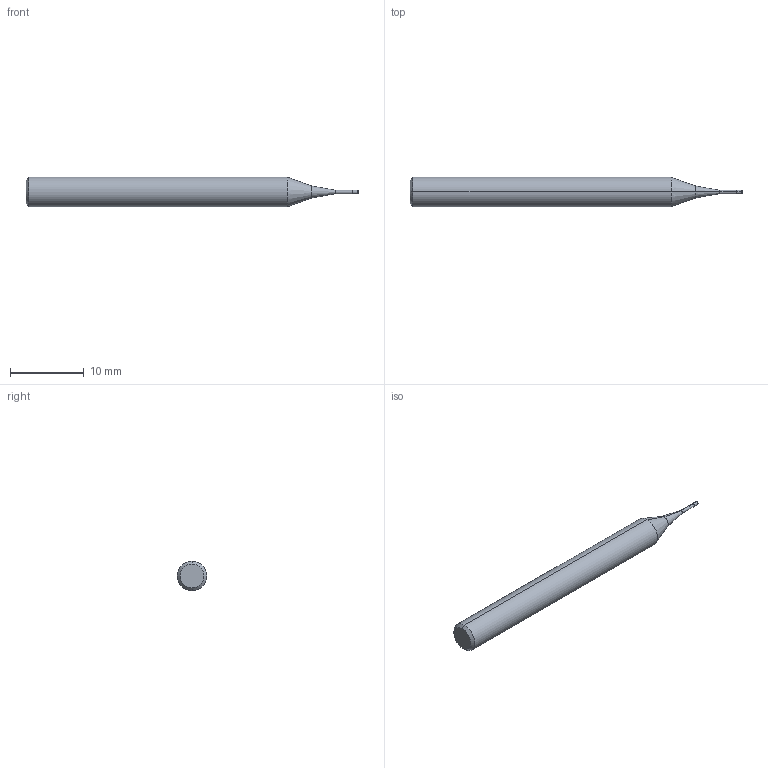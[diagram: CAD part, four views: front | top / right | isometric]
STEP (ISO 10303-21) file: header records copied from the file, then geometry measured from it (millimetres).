
FILE_DESCRIPTION (( 'STEP AP214' ), '1' );
FILE_NAME ('SEME610050103E.STEP', '2018-04-09T08:43:05', ( '' ), ( '' ), 'SwSTEP 2.0', 'SolidWorks 2014', '' );
FILE_SCHEMA (( 'AUTOMOTIVE_DESIGN' ));
Length unit declared in the file: millimetre
Products named in the file (1): SEME610050103E
Bounding box: 45 x 4 x 4 mm (x, y, z)
Volume: 469 mm3; surface area: 500.8 mm2
Topology: 2 solids, 2 shells, 18 faces, 32 edges, 18 vertices
Faces by surface type: cylinder 6, cone 6, plane 4, torus 2
Entity records: 479 total; most frequent: DIRECTION 90, CARTESIAN_POINT 69, ORIENTED_EDGE 64, AXIS2_PLACEMENT_3D 39, EDGE_CURVE 32, CIRCLE 20, VERTEX_POINT 18, ADVANCED_FACE 18
